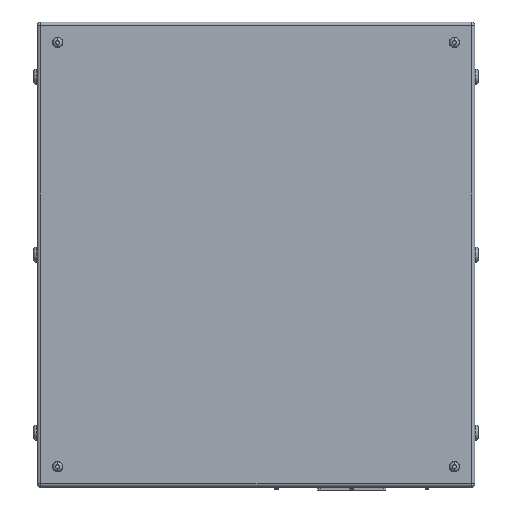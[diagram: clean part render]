
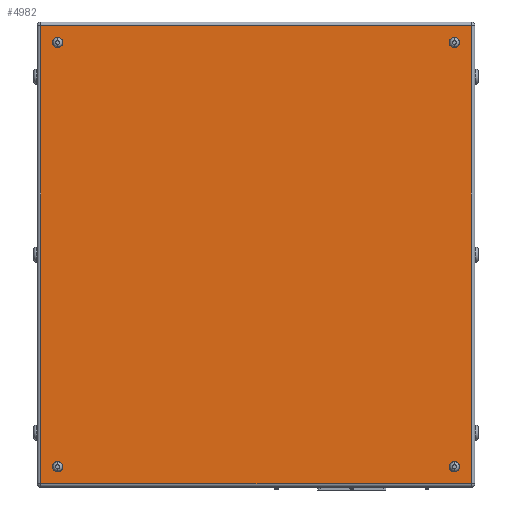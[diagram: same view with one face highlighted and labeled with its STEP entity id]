
A CAD part, front view. The second image highlights one B-rep face of the part: STEP entity #4982.
In plain terms, the highlighted planar face has unit normal (0, -1, 0).
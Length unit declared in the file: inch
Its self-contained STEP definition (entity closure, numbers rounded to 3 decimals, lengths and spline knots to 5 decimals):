
#214 = DIRECTION ( 'NONE',  ( 0., -1., 0. ) ) ;
#301 = LINE ( 'NONE', #5132, #11484 ) ;
#305 = EDGE_CURVE ( 'NONE', #12048, #9069, #375, .T. ) ;
#317 = AXIS2_PLACEMENT_3D ( 'NONE', #10765, #214, #14310 ) ;
#360 = CARTESIAN_POINT ( 'NONE',  ( 14.5, -7.75, -15.87402 ) ) ;
#375 = LINE ( 'NONE', #9379, #14578 ) ;
#556 = CARTESIAN_POINT ( 'NONE',  ( -14.5, -7.75, -15.5 ) ) ;
#580 = EDGE_CURVE ( 'NONE', #9400, #4483, #6914, .T. ) ;
#611 = CARTESIAN_POINT ( 'NONE',  ( 14.5, -7.75, -15.12598 ) ) ;
#704 = CIRCLE ( 'NONE', #3384, 0.37402 ) ;
#714 = DIRECTION ( 'NONE',  ( 0., -1., 0. ) ) ;
#856 = PLANE ( 'NONE',  #4154 ) ;
#949 = VERTEX_POINT ( 'NONE', #15132 ) ;
#1089 = AXIS2_PLACEMENT_3D ( 'NONE', #9529, #14240, #1270 ) ;
#1270 = DIRECTION ( 'NONE',  ( 0., 0., -1. ) ) ;
#1282 = EDGE_LOOP ( 'NONE', ( #8394, #9020 ) ) ;
#1392 = CARTESIAN_POINT ( 'NONE',  ( 15.734, -7.75, 16.734 ) ) ;
#1682 = CARTESIAN_POINT ( 'NONE',  ( 14.5, -7.75, 15.5 ) ) ;
#1951 = DIRECTION ( 'NONE',  ( 0., 0., -1. ) ) ;
#2158 = VERTEX_POINT ( 'NONE', #8324 ) ;
#2220 = VERTEX_POINT ( 'NONE', #7747 ) ;
#2365 = CIRCLE ( 'NONE', #5555, 0.37402 ) ;
#3091 = ORIENTED_EDGE ( 'NONE', *, *, #5276, .F. ) ;
#3360 = EDGE_CURVE ( 'NONE', #5585, #5316, #301, .T. ) ;
#3384 = AXIS2_PLACEMENT_3D ( 'NONE', #1682, #14868, #9854 ) ;
#4005 = CARTESIAN_POINT ( 'NONE',  ( -14.5, -7.75, -15.87402 ) ) ;
#4154 = AXIS2_PLACEMENT_3D ( 'NONE', #14892, #714, #8890 ) ;
#4381 = AXIS2_PLACEMENT_3D ( 'NONE', #9855, #14576, #7633 ) ;
#4434 = EDGE_CURVE ( 'NONE', #2158, #11891, #704, .T. ) ;
#4483 = VERTEX_POINT ( 'NONE', #611 ) ;
#4527 = CARTESIAN_POINT ( 'NONE',  ( -15.734, -7.75, -16.734 ) ) ;
#4982 = ADVANCED_FACE ( 'NONE', ( #13578, #14811, #7647, #7724, #12401 ), #856, .T. ) ;
#4984 = VERTEX_POINT ( 'NONE', #13724 ) ;
#5018 = CIRCLE ( 'NONE', #1089, 0.37402 ) ;
#5132 = CARTESIAN_POINT ( 'NONE',  ( 15.734, -7.75, -16.734 ) ) ;
#5230 = DIRECTION ( 'NONE',  ( 0., -1., 0. ) ) ;
#5276 = EDGE_CURVE ( 'NONE', #949, #2220, #13000, .T. ) ;
#5316 = VERTEX_POINT ( 'NONE', #10092 ) ;
#5555 = AXIS2_PLACEMENT_3D ( 'NONE', #556, #5230, #14655 ) ;
#5585 = VERTEX_POINT ( 'NONE', #4527 ) ;
#5672 = CARTESIAN_POINT ( 'NONE',  ( 15.734, -7.75, 16.734 ) ) ;
#5725 = EDGE_CURVE ( 'NONE', #11891, #2158, #9780, .T. ) ;
#5899 = ORIENTED_EDGE ( 'NONE', *, *, #12315, .F. ) ;
#6118 = ORIENTED_EDGE ( 'NONE', *, *, #3360, .T. ) ;
#6376 = EDGE_CURVE ( 'NONE', #9069, #5585, #14177, .T. ) ;
#6442 = CIRCLE ( 'NONE', #15079, 0.37402 ) ;
#6516 = DIRECTION ( 'NONE',  ( 0., -1., 0. ) ) ;
#6914 = CIRCLE ( 'NONE', #10871, 0.37402 ) ;
#6933 = ORIENTED_EDGE ( 'NONE', *, *, #305, .T. ) ;
#7252 = EDGE_CURVE ( 'NONE', #2220, #949, #5018, .T. ) ;
#7633 = DIRECTION ( 'NONE',  ( 0., 0., -1. ) ) ;
#7647 = FACE_BOUND ( 'NONE', #12074, .T. ) ;
#7724 = FACE_BOUND ( 'NONE', #8074, .T. ) ;
#7747 = CARTESIAN_POINT ( 'NONE',  ( -14.5, -7.75, 15.87402 ) ) ;
#7869 = ORIENTED_EDGE ( 'NONE', *, *, #6376, .T. ) ;
#8074 = EDGE_LOOP ( 'NONE', ( #9569, #5899 ) ) ;
#8095 = EDGE_LOOP ( 'NONE', ( #11664, #15003 ) ) ;
#8124 = DIRECTION ( 'NONE',  ( 0., -1., 0. ) ) ;
#8324 = CARTESIAN_POINT ( 'NONE',  ( 14.5, -7.75, 15.12598 ) ) ;
#8394 = ORIENTED_EDGE ( 'NONE', *, *, #5725, .F. ) ;
#8503 = EDGE_CURVE ( 'NONE', #5316, #12048, #12950, .T. ) ;
#8862 = DIRECTION ( 'NONE',  ( 0., 0., -1. ) ) ;
#8890 = DIRECTION ( 'NONE',  ( 0., 0., -1. ) ) ;
#9020 = ORIENTED_EDGE ( 'NONE', *, *, #4434, .F. ) ;
#9069 = VERTEX_POINT ( 'NONE', #12145 ) ;
#9172 = CARTESIAN_POINT ( 'NONE',  ( -15.734, -7.75, -16.734 ) ) ;
#9379 = CARTESIAN_POINT ( 'NONE',  ( -15.734, -7.75, 16.734 ) ) ;
#9400 = VERTEX_POINT ( 'NONE', #360 ) ;
#9529 = CARTESIAN_POINT ( 'NONE',  ( -14.5, -7.75, 15.5 ) ) ;
#9569 = ORIENTED_EDGE ( 'NONE', *, *, #10551, .F. ) ;
#9638 = EDGE_LOOP ( 'NONE', ( #9747, #6933, #7869, #6118 ) ) ;
#9747 = ORIENTED_EDGE ( 'NONE', *, *, #8503, .T. ) ;
#9780 = CIRCLE ( 'NONE', #11733, 0.37402 ) ;
#9854 = DIRECTION ( 'NONE',  ( 0., 0., -1. ) ) ;
#9855 = CARTESIAN_POINT ( 'NONE',  ( -14.5, -7.75, 15.5 ) ) ;
#9890 = CIRCLE ( 'NONE', #317, 0.37402 ) ;
#9915 = CARTESIAN_POINT ( 'NONE',  ( 14.5, -7.75, 15.87402 ) ) ;
#9922 = CARTESIAN_POINT ( 'NONE',  ( 14.5, -7.75, -15.5 ) ) ;
#10092 = CARTESIAN_POINT ( 'NONE',  ( 15.734, -7.75, -16.734 ) ) ;
#10373 = EDGE_CURVE ( 'NONE', #4483, #9400, #9890, .T. ) ;
#10551 = EDGE_CURVE ( 'NONE', #4984, #15149, #6442, .T. ) ;
#10629 = DIRECTION ( 'NONE',  ( -1., 0., 0. ) ) ;
#10765 = CARTESIAN_POINT ( 'NONE',  ( 14.5, -7.75, -15.5 ) ) ;
#10871 = AXIS2_PLACEMENT_3D ( 'NONE', #9922, #6516, #8862 ) ;
#11484 = VECTOR ( 'NONE', #14482, 39.37008 ) ;
#11664 = ORIENTED_EDGE ( 'NONE', *, *, #10373, .F. ) ;
#11709 = DIRECTION ( 'NONE',  ( 0., 0., 1. ) ) ;
#11733 = AXIS2_PLACEMENT_3D ( 'NONE', #13391, #12217, #1951 ) ;
#11891 = VERTEX_POINT ( 'NONE', #9915 ) ;
#12048 = VERTEX_POINT ( 'NONE', #5672 ) ;
#12074 = EDGE_LOOP ( 'NONE', ( #14464, #3091 ) ) ;
#12145 = CARTESIAN_POINT ( 'NONE',  ( -15.734, -7.75, 16.734 ) ) ;
#12217 = DIRECTION ( 'NONE',  ( 0., -1., 0. ) ) ;
#12315 = EDGE_CURVE ( 'NONE', #15149, #4984, #2365, .T. ) ;
#12401 = FACE_OUTER_BOUND ( 'NONE', #9638, .T. ) ;
#12950 = LINE ( 'NONE', #1392, #13964 ) ;
#13000 = CIRCLE ( 'NONE', #4381, 0.37402 ) ;
#13022 = DIRECTION ( 'NONE',  ( 0., 0., -1. ) ) ;
#13129 = DIRECTION ( 'NONE',  ( 0., 0., -1. ) ) ;
#13391 = CARTESIAN_POINT ( 'NONE',  ( 14.5, -7.75, 15.5 ) ) ;
#13578 = FACE_BOUND ( 'NONE', #1282, .T. ) ;
#13724 = CARTESIAN_POINT ( 'NONE',  ( -14.5, -7.75, -15.12598 ) ) ;
#13964 = VECTOR ( 'NONE', #11709, 39.37008 ) ;
#13982 = CARTESIAN_POINT ( 'NONE',  ( -14.5, -7.75, -15.5 ) ) ;
#14177 = LINE ( 'NONE', #9172, #15121 ) ;
#14240 = DIRECTION ( 'NONE',  ( 0., -1., 0. ) ) ;
#14310 = DIRECTION ( 'NONE',  ( 0., 0., -1. ) ) ;
#14464 = ORIENTED_EDGE ( 'NONE', *, *, #7252, .F. ) ;
#14482 = DIRECTION ( 'NONE',  ( 1., 0., 0. ) ) ;
#14576 = DIRECTION ( 'NONE',  ( 0., -1., 0. ) ) ;
#14578 = VECTOR ( 'NONE', #10629, 39.37008 ) ;
#14655 = DIRECTION ( 'NONE',  ( 0., 0., -1. ) ) ;
#14811 = FACE_BOUND ( 'NONE', #8095, .T. ) ;
#14868 = DIRECTION ( 'NONE',  ( 0., -1., 0. ) ) ;
#14892 = CARTESIAN_POINT ( 'NONE',  ( 0., -7.75, 0. ) ) ;
#15003 = ORIENTED_EDGE ( 'NONE', *, *, #580, .F. ) ;
#15079 = AXIS2_PLACEMENT_3D ( 'NONE', #13982, #8124, #13129 ) ;
#15121 = VECTOR ( 'NONE', #13022, 39.37008 ) ;
#15132 = CARTESIAN_POINT ( 'NONE',  ( -14.5, -7.75, 15.12598 ) ) ;
#15149 = VERTEX_POINT ( 'NONE', #4005 ) ;
